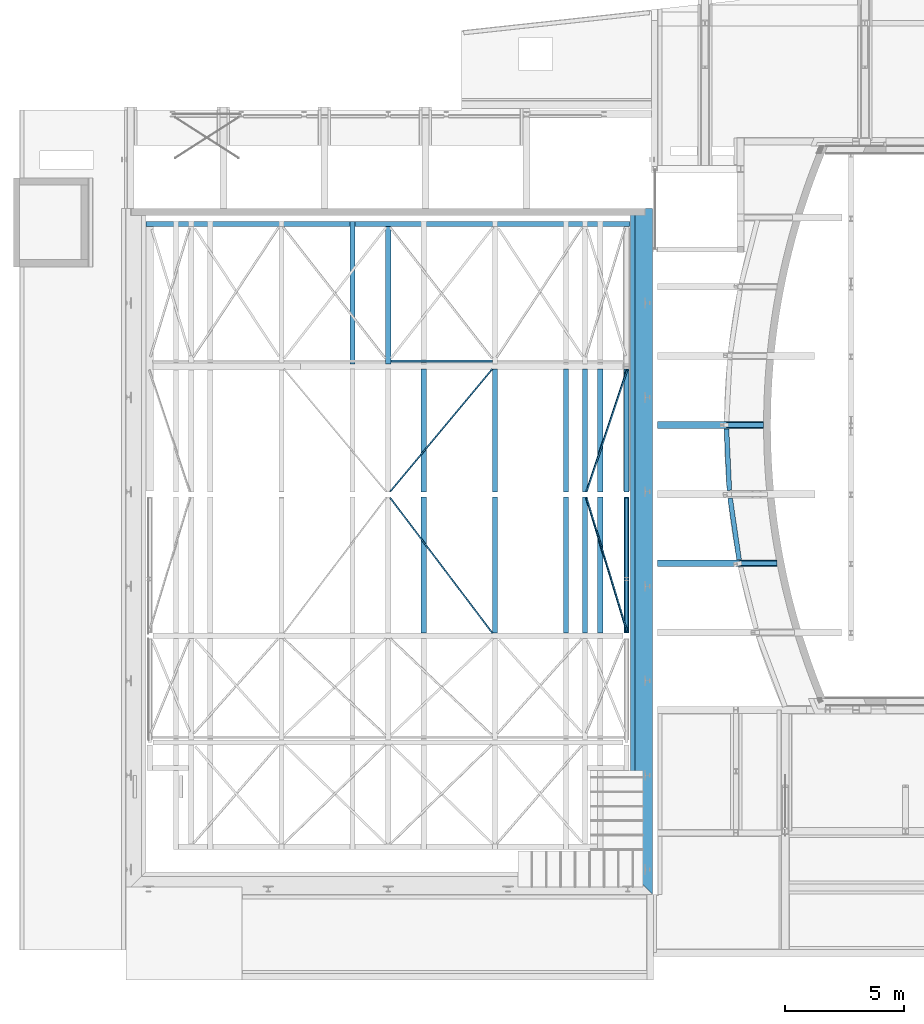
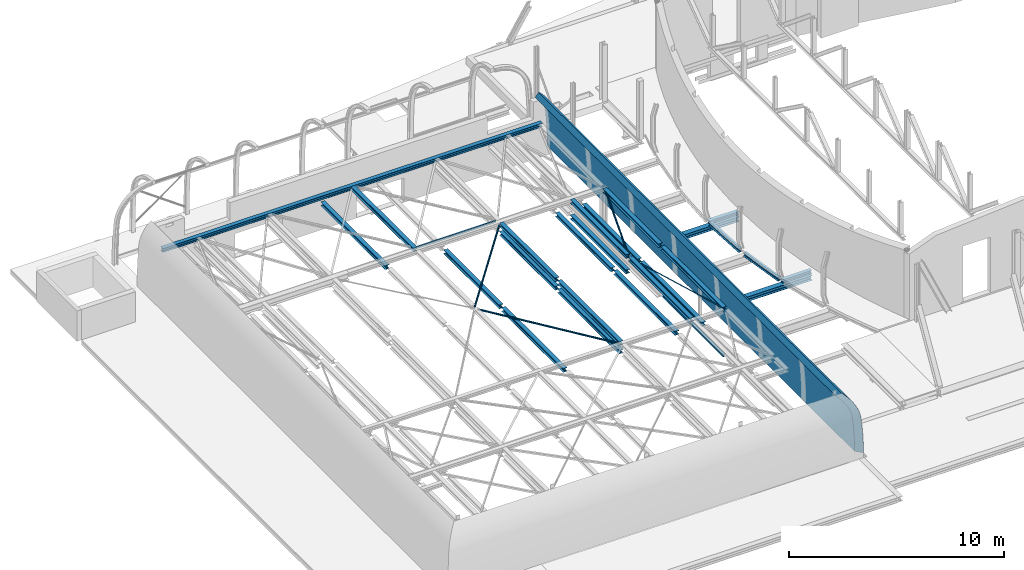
# One storey, part 16 of 38: 31 beams.
"""IFC2X3 building model written with IfcOpenShell, lengths in millimetres."""

from ifc_helpers import new_model, entity, si_unit, converted_unit, derived_unit, direction, frame, frame_2d, origin, place, context, subcontext, project, spatial, polyline, circle_curve, parameter, trimmed, segment, composite_curve, i_section, outline, extrude, clip, halfspace, material, type_object, element, save


model = new_model("IFC2X3")

# Units and contexts
model_context = context("Model", 3, precision=0.01, world=origin(), true_north=direction((6.12303176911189e-17, 1.0)))
body_context = subcontext(model_context, "Body", "Model", "MODEL_VIEW")
ifc_project = project(units=[si_unit("LENGTHUNIT", "METRE", prefix="MILLI"), si_unit("AREAUNIT", "SQUARE_METRE", prefix="MILLI"), si_unit("VOLUMEUNIT", "CUBIC_METRE"), converted_unit("PLANEANGLEUNIT", "DEGREE", entity("IfcRatioMeasure", 0.0174532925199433), si_unit("PLANEANGLEUNIT", "RADIAN"), dimensions=[0, 0, 0, 0, 0, 0, 0]), si_unit("MASSUNIT", "GRAM", prefix="KILO"), derived_unit("MASSDENSITYUNIT", [(si_unit("MASSUNIT", "GRAM", prefix="KILO"), 1), (si_unit("LENGTHUNIT", "METRE"), -3)]), derived_unit("MOMENTOFINERTIAUNIT", [(si_unit("LENGTHUNIT", "METRE"), 4)]), si_unit("TIMEUNIT", "SECOND"), si_unit("FREQUENCYUNIT", "HERTZ"), si_unit("THERMODYNAMICTEMPERATUREUNIT", "DEGREE_CELSIUS"), derived_unit("THERMALTRANSMITTANCEUNIT", [(si_unit("MASSUNIT", "GRAM", prefix="KILO"), 1), (si_unit("THERMODYNAMICTEMPERATUREUNIT", "KELVIN"), -1), (si_unit("TIMEUNIT", "SECOND"), -3)]), derived_unit("VOLUMETRICFLOWRATEUNIT", [(si_unit("LENGTHUNIT", "METRE"), 3), (si_unit("TIMEUNIT", "SECOND"), -1)]), si_unit("ELECTRICCURRENTUNIT", "AMPERE"), si_unit("ELECTRICVOLTAGEUNIT", "VOLT"), si_unit("POWERUNIT", "WATT"), si_unit("FORCEUNIT", "NEWTON", prefix="KILO"), si_unit("ILLUMINANCEUNIT", "LUX"), si_unit("LUMINOUSFLUXUNIT", "LUMEN"), si_unit("LUMINOUSINTENSITYUNIT", "CANDELA"), derived_unit("USERDEFINED", [(si_unit("MASSUNIT", "GRAM", prefix="KILO"), -1), (si_unit("LENGTHUNIT", "METRE"), -2), (si_unit("TIMEUNIT", "SECOND"), 3), (si_unit("LUMINOUSFLUXUNIT", "LUMEN"), 1)]), derived_unit("LINEARVELOCITYUNIT", [(si_unit("LENGTHUNIT", "METRE"), 1), (si_unit("TIMEUNIT", "SECOND"), -1)]), si_unit("PRESSUREUNIT", "PASCAL"), derived_unit("USERDEFINED", [(si_unit("LENGTHUNIT", "METRE"), -2), (si_unit("MASSUNIT", "GRAM", prefix="KILO"), 1), (si_unit("TIMEUNIT", "SECOND"), -2)]), derived_unit("LINEARFORCEUNIT", [(si_unit("MASSUNIT", "GRAM", prefix="KILO"), 1), (si_unit("LENGTHUNIT", "METRE"), 1), (si_unit("TIMEUNIT", "SECOND"), -2), (si_unit("LENGTHUNIT", "METRE"), -1)]), derived_unit("PLANARFORCEUNIT", [(si_unit("MASSUNIT", "GRAM", prefix="KILO"), 1), (si_unit("LENGTHUNIT", "METRE"), 1), (si_unit("TIMEUNIT", "SECOND"), -2), (si_unit("LENGTHUNIT", "METRE"), -2)])], contexts=[model_context])

# Site, building, storey
site_placement = place(None, origin())
site = spatial("IfcSite", under=ifc_project, at=site_placement, Name="Theater aan de Parade", CompositionType="ELEMENT")
building_placement = place(site_placement, origin())
building = spatial("IfcBuilding", under=site, at=building_placement, Name="Theater aan de Parade", CompositionType="ELEMENT")
storey_placement = place(building_placement, frame((0.0, 0.0, 12480.0)))
storey = spatial("IfcBuildingStorey", under=building, at=storey_placement, Name="03 derde verdieping", CompositionType="ELEMENT", Elevation=12480.0)

# Beams
ifc_material_1 = material(Name="00_PBT_MAT_staal_S355")
beam_type_1 = type_object("IfcBeamType", Name="28_PBT_SF_staal_H-profiel:S355_HE220B", PredefinedType="NOTDEFINED")
beam_1_placement = place(storey_placement, frame((15903.8570032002, 40923.3083270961, 1930.0)))
element("IfcBeam", 1, at=beam_1_placement, inside=storey, type_object=beam_type_1, material=ifc_material_1, Name="28_PBT_SF_staal_H-profiel:S355_HE220B", ObjectType="28_PBT_SF_staal_H-profiel:S355_HE220B", context=body_context, shape_type="SweptSolid", body=[
    extrude(i_section(OverallWidth=220.000000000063, OverallDepth=220.0, WebThickness=9.49999999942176, FlangeThickness=15.9999999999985, FilletRadius=17.9999999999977, at=frame_2d((-5.41433564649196e-12, 0.0), x_axis=(0.0, 1.0))), frame((0.0, 0.0, -110.0), z_axis=(1.0, 0.0, 0.0), x_axis=(0.0, 0.0, -1.0)), (0.0, 0.0, 1.0), 20390.0011268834),
])
ifc_material_2 = material(Name="00_PBT_MAT_beton prefab")
beam_type_2 = type_object("IfcBeamType", Name="28_PBT_SF_paradezaal_dakboog:28_PBT_SF_paradezaal_dakboog", PredefinedType="NOTDEFINED")
beam_2_placement = place(storey_placement, frame((36953.8581300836, 41573.3083270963, 0.0), z_axis=(0.0, 0.0, 1.0), x_axis=(0.0, -1.0, 0.0)))
element("IfcBeam", 2, at=beam_2_placement, inside=storey, type_object=beam_type_2, material=ifc_material_2, Name="28_PBT_SF_paradezaal_dakboog:28_PBT_SF_paradezaal_dakboog", ObjectType="28_PBT_SF_paradezaal_dakboog:28_PBT_SF_paradezaal_dakboog", context=body_context, shape_type="Clipping", body=[
    clip(extrude(outline(composite_curve([segment(polyline([(48.2751058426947, -1315.62635842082), (348.276069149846, -1315.62635842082)]), True, "CONTINUOUS"), segment(polyline([(348.276069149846, -1315.62635842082), (348.276069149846, -1235.62635842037)]), True, "CONTINUOUS"), segment(trimmed(circle_curve(frame_2d((-19571.6655062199, -1185.52725132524), x_axis=(0.999996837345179, -0.00251501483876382)), 19920.0045754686), [parameter(0.0)], [parameter(5.86098196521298)], True, "PARAMETER"), True, "CONTINUOUS"), segment(trimmed(circle_curve(frame_2d((-1483.66591109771, 503.073123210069), x_axis=(0.985753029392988, 0.168199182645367)), 1757.97390754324), [parameter(0.0)], [parameter(42.4704148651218)], True, "PARAMETER"), True, "CONTINUOUS"), segment(polyline([(-405.065458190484, 1891.27099188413), (-589.12970083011, 1654.37364157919)]), True, "CONTINUOUS"), segment(trimmed(circle_curve(frame_2d((-1483.6659110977, 503.073123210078), x_axis=(0.613547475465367, 0.789657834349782)), 1457.97390754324), [parameter(317.920295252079)], [parameter(0.0)], True, "PARAMETER"), False, "CONTINUOUS"), segment(trimmed(circle_curve(frame_2d((-19571.6655062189, -1185.52725132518), x_axis=(0.99508111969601, 0.0990634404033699)), 19620.0045754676), [parameter(354.168454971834)], [parameter(0.0)], True, "PARAMETER"), False, "CONTINUOUS"), segment(polyline([(48.2751058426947, -1235.62635842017), (48.2751058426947, -1315.62635842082)]), True, "CONTINUOUS")], self_intersect=False)), frame((0.0, -47.6858545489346, 1255.62635842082), z_axis=(1.0, 0.0, 0.0), x_axis=(0.0, 1.0, 0.0)), (0.0, 0.0, 1.0), 28904.671771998), halfspace(frame((28160.1492773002, -443.932280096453, 4340.0), z_axis=(0.707106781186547, -0.707106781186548, 0.0), x_axis=(-0.707106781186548, -0.707106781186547, 0.0)), False)),
])
beam_type_3 = type_object("IfcBeamType", Name="28_PBT_SF_staal_H-profiel:S355_HE220A", PredefinedType="NOTDEFINED")
beam_3_placement = place(storey_placement, frame((36153.8581300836, 34808.2922984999, 1930.0), z_axis=(0.0, 0.0, 1.0), x_axis=(0.0, -1.0, 0.0)))
element("IfcBeam", 3, at=beam_3_placement, inside=storey, type_object=beam_type_3, material=ifc_material_1, Name="28_PBT_SF_staal_H-profiel:S355_HE220A", ObjectType="28_PBT_SF_staal_H-profiel:S355_HE220A", context=body_context, shape_type="SweptSolid", body=[
    extrude(i_section(OverallWidth=219.999999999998, OverallDepth=210.0, WebThickness=7.00000000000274, FlangeThickness=10.9999999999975, FilletRadius=18.0000000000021, at=frame_2d((0.0, -6.50146603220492e-12), x_axis=(0.0, 1.0))), frame((0.0, 0.0, -105.0), z_axis=(1.0, 0.0, 0.0), x_axis=(0.0, 0.0, -1.0)), (0.0, 0.0, 1.0), 5180.0),
])
beam_4_placement = place(storey_placement, frame((36153.8581300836, 29408.2922984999, 1930.0), z_axis=(0.0, 0.0, 1.0), x_axis=(0.0, -1.0, 0.0)))
element("IfcBeam", 4, at=beam_4_placement, inside=storey, type_object=beam_type_3, material=ifc_material_1, Name="28_PBT_SF_staal_H-profiel:S355_HE220A", ObjectType="28_PBT_SF_staal_H-profiel:S355_HE220A", context=body_context, shape_type="SweptSolid", body=[
    extrude(i_section(OverallWidth=220.000000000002, OverallDepth=210.0, WebThickness=7.00000000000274, FlangeThickness=10.9999999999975, FilletRadius=18.0000000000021, at=frame_2d((0.0, -6.50146603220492e-12), x_axis=(0.0, 1.0))), frame((0.0, 0.0, -105.0), z_axis=(1.0, 0.0, 0.0), x_axis=(0.0, 0.0, -1.0)), (0.0, 0.0, 1.0), 5729.99999999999),
])
beam_5_placement = place(storey_placement, frame((26103.8570025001, 40813.308327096, 1930.0), z_axis=(0.0, 0.0, 1.0), x_axis=(0.0, -1.0, 0.0)))
element("IfcBeam", 5, at=beam_5_placement, inside=storey, type_object=beam_type_3, material=ifc_material_1, Name="28_PBT_SF_staal_H-profiel:S355_HE220A", ObjectType="28_PBT_SF_staal_H-profiel:S355_HE220A", context=body_context, shape_type="SweptSolid", body=[
    extrude(i_section(OverallWidth=220.000000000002, OverallDepth=210.0, WebThickness=7.00000000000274, FlangeThickness=10.9999999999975, FilletRadius=18.0000000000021, at=frame_2d((0.0, -2.16715534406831e-12), x_axis=(0.0, 1.0))), frame((0.0, 0.0, -105.0), z_axis=(1.0, 0.0, 0.0), x_axis=(0.0, 0.0, -1.0)), (0.0, 0.0, 1.0), 5785.01602859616),
])
beam_6_placement = place(storey_placement, frame((30603.8570025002, 34808.2922984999, 1930.0), z_axis=(0.0, 0.0, 1.0), x_axis=(0.0, -1.0, 0.0)))
element("IfcBeam", 6, at=beam_6_placement, inside=storey, type_object=beam_type_3, material=ifc_material_1, Name="28_PBT_SF_staal_H-profiel:S355_HE220A", ObjectType="28_PBT_SF_staal_H-profiel:S355_HE220A", context=body_context, shape_type="SweptSolid", body=[
    extrude(i_section(OverallWidth=219.999999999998, OverallDepth=210.0, WebThickness=7.00000000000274, FlangeThickness=10.9999999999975, FilletRadius=18.0000000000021, at=frame_2d((0.0, 2.16715534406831e-12), x_axis=(0.0, 1.0))), frame((0.0, 0.0, -105.0), z_axis=(1.0, 0.0, 0.0), x_axis=(0.0, 0.0, -1.0)), (0.0, 0.0, 1.0), 5180.0),
])
beam_7_placement = place(storey_placement, frame((30603.8570025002, 29408.2922984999, 1930.0), z_axis=(0.0, 0.0, 1.0), x_axis=(0.0, -1.0, 0.0)))
element("IfcBeam", 7, at=beam_7_placement, inside=storey, type_object=beam_type_3, material=ifc_material_1, Name="28_PBT_SF_staal_H-profiel:S355_HE220A", ObjectType="28_PBT_SF_staal_H-profiel:S355_HE220A", context=body_context, shape_type="SweptSolid", body=[
    extrude(i_section(OverallWidth=220.000000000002, OverallDepth=210.0, WebThickness=7.00000000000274, FlangeThickness=10.9999999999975, FilletRadius=18.0000000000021, at=frame_2d((0.0, 2.16715534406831e-12), x_axis=(0.0, 1.0))), frame((0.0, 0.0, -105.0), z_axis=(1.0, 0.0, 0.0), x_axis=(0.0, 0.0, -1.0)), (0.0, 0.0, 1.0), 5729.99999999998),
])
beam_8_placement = place(storey_placement, frame((34405.85634631, 34808.2922984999, 1930.0), z_axis=(0.0, 0.0, 1.0), x_axis=(0.0, -1.0, 0.0)))
element("IfcBeam", 8, at=beam_8_placement, inside=storey, type_object=beam_type_3, material=ifc_material_1, Name="28_PBT_SF_staal_H-profiel:S355_HE220A", ObjectType="28_PBT_SF_staal_H-profiel:S355_HE220A", context=body_context, shape_type="SweptSolid", body=[
    extrude(i_section(OverallWidth=219.999999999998, OverallDepth=210.0, WebThickness=7.00000000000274, FlangeThickness=10.9999999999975, FilletRadius=18.0000000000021, at=frame_2d((0.0, -2.16715534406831e-12), x_axis=(0.0, 1.0))), frame((0.0, 0.0, -105.0), z_axis=(1.0, 0.0, 0.0), x_axis=(0.0, 0.0, -1.0)), (0.0, 0.0, 1.0), 5180.0),
])
beam_9_placement = place(storey_placement, frame((34405.85634631, 29408.2922984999, 1930.0), z_axis=(0.0, 0.0, 1.0), x_axis=(0.0, -1.0, 0.0)))
element("IfcBeam", 9, at=beam_9_placement, inside=storey, type_object=beam_type_3, material=ifc_material_1, Name="28_PBT_SF_staal_H-profiel:S355_HE220A", ObjectType="28_PBT_SF_staal_H-profiel:S355_HE220A", context=body_context, shape_type="SweptSolid", body=[
    extrude(i_section(OverallWidth=220.000000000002, OverallDepth=210.0, WebThickness=7.00000000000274, FlangeThickness=10.9999999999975, FilletRadius=18.0000000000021, at=frame_2d((0.0, -2.16715534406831e-12), x_axis=(0.0, 1.0))), frame((0.0, 0.0, -105.0), z_axis=(1.0, 0.0, 0.0), x_axis=(0.0, 0.0, -1.0)), (0.0, 0.0, 1.0), 5729.99999999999),
])
beam_10_placement = place(storey_placement, frame((24603.8563463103, 41033.3083270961, 1930.0), z_axis=(0.0, 0.0, 1.0), x_axis=(0.0, -1.0, 0.0)))
element("IfcBeam", 10, at=beam_10_placement, inside=storey, type_object=beam_type_3, material=ifc_material_1, Name="28_PBT_SF_staal_H-profiel:S355_HE220A", ObjectType="28_PBT_SF_staal_H-profiel:S355_HE220A", context=body_context, shape_type="SweptSolid", body=[
    extrude(i_section(OverallWidth=220.000000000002, OverallDepth=210.0, WebThickness=7.00000000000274, FlangeThickness=10.9999999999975, FilletRadius=18.0000000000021, at=frame_2d((-2.16715534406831e-12, 2.16715534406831e-12), x_axis=(0.0, 1.0))), frame((0.0, 0.0, -585.0), z_axis=(1.0, 0.0, 0.0), x_axis=(0.0, 0.0, -1.0)), (0.0, 0.0, 1.0), 6005.01602859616),
])
beam_11_placement = place(storey_placement, frame((27603.8563463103, 34808.2922984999, 1930.0), z_axis=(0.0, 0.0, 1.0), x_axis=(0.0, -1.0, 0.0)))
element("IfcBeam", 11, at=beam_11_placement, inside=storey, type_object=beam_type_3, material=ifc_material_1, Name="28_PBT_SF_staal_H-profiel:S355_HE220A", ObjectType="28_PBT_SF_staal_H-profiel:S355_HE220A", context=body_context, shape_type="SweptSolid", body=[
    extrude(i_section(OverallWidth=219.999999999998, OverallDepth=210.0, WebThickness=7.00000000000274, FlangeThickness=10.9999999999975, FilletRadius=18.0000000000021, at=frame_2d((-2.16715534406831e-12, -2.16715534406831e-12), x_axis=(0.0, 1.0))), frame((0.0, 0.0, -585.0), z_axis=(1.0, 0.0, 0.0), x_axis=(0.0, 0.0, -1.0)), (0.0, 0.0, 1.0), 5180.0),
])
beam_12_placement = place(storey_placement, frame((27603.8563463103, 29408.2922984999, 1930.0), z_axis=(0.0, 0.0, 1.0), x_axis=(0.0, -1.0, 0.0)))
element("IfcBeam", 12, at=beam_12_placement, inside=storey, type_object=beam_type_3, material=ifc_material_1, Name="28_PBT_SF_staal_H-profiel:S355_HE220A", ObjectType="28_PBT_SF_staal_H-profiel:S355_HE220A", context=body_context, shape_type="SweptSolid", body=[
    extrude(i_section(OverallWidth=220.000000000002, OverallDepth=210.0, WebThickness=7.00000000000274, FlangeThickness=10.9999999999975, FilletRadius=18.0000000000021, at=frame_2d((-2.16715534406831e-12, -2.16715534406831e-12), x_axis=(0.0, 1.0))), frame((0.0, 0.0, -585.0), z_axis=(1.0, 0.0, 0.0), x_axis=(0.0, 0.0, -1.0)), (0.0, 0.0, 1.0), 5729.99999999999),
])
beam_13_placement = place(storey_placement, frame((33603.8563463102, 34808.2922984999, 1930.0), z_axis=(0.0, 0.0, 1.0), x_axis=(0.0, -1.0, 0.0)))
element("IfcBeam", 13, at=beam_13_placement, inside=storey, type_object=beam_type_3, material=ifc_material_1, Name="28_PBT_SF_staal_H-profiel:S355_HE220A", ObjectType="28_PBT_SF_staal_H-profiel:S355_HE220A", context=body_context, shape_type="SweptSolid", body=[
    extrude(i_section(OverallWidth=219.999999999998, OverallDepth=210.0, WebThickness=7.00000000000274, FlangeThickness=10.9999999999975, FilletRadius=18.0000000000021, at=frame_2d((-2.16715534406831e-12, -2.16715534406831e-12), x_axis=(0.0, 1.0))), frame((0.0, 0.0, -585.0), z_axis=(1.0, 0.0, 0.0), x_axis=(0.0, 0.0, -1.0)), (0.0, 0.0, 1.0), 5180.0),
])
beam_14_placement = place(storey_placement, frame((33603.8563463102, 29408.2922984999, 1930.0), z_axis=(0.0, 0.0, 1.0), x_axis=(0.0, -1.0, 0.0)))
element("IfcBeam", 14, at=beam_14_placement, inside=storey, type_object=beam_type_3, material=ifc_material_1, Name="28_PBT_SF_staal_H-profiel:S355_HE220A", ObjectType="28_PBT_SF_staal_H-profiel:S355_HE220A", context=body_context, shape_type="SweptSolid", body=[
    extrude(i_section(OverallWidth=220.000000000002, OverallDepth=210.0, WebThickness=7.00000000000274, FlangeThickness=10.9999999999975, FilletRadius=18.0000000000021, at=frame_2d((-2.16715534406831e-12, -6.50146603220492e-12), x_axis=(0.0, 1.0))), frame((0.0, 0.0, -585.0), z_axis=(1.0, 0.0, 0.0), x_axis=(0.0, 0.0, -1.0)), (0.0, 0.0, 1.0), 5729.99999999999),
])
beam_15_placement = place(storey_placement, frame((35043.8557463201, 34808.2922984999, 1930.0), z_axis=(0.0, 0.0, 1.0), x_axis=(0.0, -1.0, 0.0)))
element("IfcBeam", 15, at=beam_15_placement, inside=storey, type_object=beam_type_3, material=ifc_material_1, Name="28_PBT_SF_staal_H-profiel:S355_HE220A", ObjectType="28_PBT_SF_staal_H-profiel:S355_HE220A", context=body_context, shape_type="SweptSolid", body=[
    extrude(i_section(OverallWidth=219.999999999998, OverallDepth=210.0, WebThickness=7.00000000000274, FlangeThickness=10.9999999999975, FilletRadius=18.0000000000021, at=frame_2d((-2.16715534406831e-12, 6.50146603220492e-12), x_axis=(0.0, 1.0))), frame((0.0, 0.0, -585.0), z_axis=(1.0, 0.0, 0.0), x_axis=(0.0, 0.0, -1.0)), (0.0, 0.0, 1.0), 5180.0),
])
beam_16_placement = place(storey_placement, frame((35043.8557463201, 29408.2922984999, 1930.0), z_axis=(0.0, 0.0, 1.0), x_axis=(0.0, -1.0, 0.0)))
element("IfcBeam", 16, at=beam_16_placement, inside=storey, type_object=beam_type_3, material=ifc_material_1, Name="28_PBT_SF_staal_H-profiel:S355_HE220A", ObjectType="28_PBT_SF_staal_H-profiel:S355_HE220A", context=body_context, shape_type="SweptSolid", body=[
    extrude(i_section(OverallWidth=220.000000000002, OverallDepth=210.0, WebThickness=7.00000000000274, FlangeThickness=10.9999999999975, FilletRadius=18.0000000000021, at=frame_2d((-2.16715534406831e-12, 6.50146603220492e-12), x_axis=(0.0, 1.0))), frame((0.0, 0.0, -585.0), z_axis=(1.0, 0.0, 0.0), x_axis=(0.0, 0.0, -1.0)), (0.0, 0.0, 1.0), 5729.99999999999),
])
beam_17_placement = place(storey_placement, frame((30603.8570025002, 34808.2922984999, 1930.0), z_axis=(0.0, 0.0, 1.0), x_axis=(0.0, -1.0, 0.0)))
element("IfcBeam", 17, at=beam_17_placement, inside=storey, type_object=beam_type_3, material=ifc_material_1, Name="28_PBT_SF_staal_H-profiel:S355_HE220A", ObjectType="28_PBT_SF_staal_H-profiel:S355_HE220A", context=body_context, shape_type="SweptSolid", body=[
    extrude(i_section(OverallWidth=219.999999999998, OverallDepth=210.0, WebThickness=7.00000000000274, FlangeThickness=10.9999999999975, FilletRadius=18.0000000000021, at=frame_2d((-2.16715534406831e-12, 2.16715534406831e-12), x_axis=(0.0, 1.0))), frame((0.0, 0.0, -585.0), z_axis=(1.0, 0.0, 0.0), x_axis=(0.0, 0.0, -1.0)), (0.0, 0.0, 1.0), 5180.0),
])
beam_18_placement = place(storey_placement, frame((34405.85634631, 34808.2922984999, 1930.0), z_axis=(0.0, 0.0, 1.0), x_axis=(0.0, -1.0, 0.0)))
element("IfcBeam", 18, at=beam_18_placement, inside=storey, type_object=beam_type_3, material=ifc_material_1, Name="28_PBT_SF_staal_H-profiel:S355_HE220A", ObjectType="28_PBT_SF_staal_H-profiel:S355_HE220A", context=body_context, shape_type="SweptSolid", body=[
    extrude(i_section(OverallWidth=219.999999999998, OverallDepth=210.0, WebThickness=7.00000000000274, FlangeThickness=10.9999999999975, FilletRadius=18.0000000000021, at=frame_2d((-2.16715534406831e-12, 2.16715534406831e-12), x_axis=(0.0, 1.0))), frame((0.0, 0.0, -985.0), z_axis=(1.0, 0.0, 0.0), x_axis=(0.0, 0.0, -1.0)), (0.0, 0.0, 1.0), 5180.0),
])
beam_19_placement = place(storey_placement, frame((30603.8570025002, 29408.2922984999, 1930.0), z_axis=(0.0, 0.0, 1.0), x_axis=(0.0, -1.0, 0.0)))
element("IfcBeam", 19, at=beam_19_placement, inside=storey, type_object=beam_type_3, material=ifc_material_1, Name="28_PBT_SF_staal_H-profiel:S355_HE220A", ObjectType="28_PBT_SF_staal_H-profiel:S355_HE220A", context=body_context, shape_type="SweptSolid", body=[
    extrude(i_section(OverallWidth=220.000000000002, OverallDepth=210.0, WebThickness=7.00000000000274, FlangeThickness=10.9999999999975, FilletRadius=18.0000000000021, at=frame_2d((-2.16715534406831e-12, 2.16715534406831e-12), x_axis=(0.0, 1.0))), frame((0.0, 0.0, -585.0), z_axis=(1.0, 0.0, 0.0), x_axis=(0.0, 0.0, -1.0)), (0.0, 0.0, 1.0), 5729.99999999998),
])
beam_type_4 = type_object("IfcBeamType", Name="28_PBT_SF_staal_H-profiel:S355_HE140A", PredefinedType="NOTDEFINED")
beam_20_placement = place(storey_placement, frame((36153.8581300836, 29378.2922984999, 0.0), z_axis=(0.0, 0.0, 1.0), x_axis=(0.0, -1.0, 0.0)))
element("IfcBeam", 20, at=beam_20_placement, inside=storey, type_object=beam_type_4, material=ifc_material_1, Name="28_PBT_SF_staal_H-profiel:S355_HE140A", ObjectType="28_PBT_SF_staal_H-profiel:S355_HE140A", context=body_context, shape_type="SweptSolid", body=[
    extrude(i_section(OverallWidth=139.999999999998, OverallDepth=133.0, WebThickness=5.50000000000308, FlangeThickness=8.49999999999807, FilletRadius=12.0000000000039, at=frame_2d((0.0, 2.1600499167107e-12), x_axis=(0.0, 1.0))), frame((0.0, 0.0, -846.5), z_axis=(1.0, 0.0, 0.0), x_axis=(0.0, 0.0, -1.0)), (0.0, 0.0, 1.0), 5669.99999999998),
])
beam_type_5 = type_object("IfcBeamType", Name="28_PBT_SF_staal_H-profiel:S355_HE200A", PredefinedType="NOTDEFINED")
beam_21_placement = place(storey_placement, frame((40366.177385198, 32287.0565822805, 0.0), z_axis=(0.0, 0.0, 1.0), x_axis=(0.0462129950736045, -0.9989316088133, 0.0)))
element("IfcBeam", 21, at=beam_21_placement, inside=storey, type_object=beam_type_5, material=ifc_material_1, Name="28_PBT_SF_staal_H-profiel:S355_HE200A", ObjectType="28_PBT_SF_staal_H-profiel:S355_HE200A", context=body_context, shape_type="SweptSolid", body=[
    extrude(i_section(OverallWidth=199.999999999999, OverallDepth=190.0, WebThickness=6.49999999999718, FlangeThickness=9.99999999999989, FilletRadius=18.0000000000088, at=frame_2d((-2.16715534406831e-12, 4.32720526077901e-12), x_axis=(0.0, 1.0))), frame((0.0, 0.0, -25.0), z_axis=(1.0, 0.0, 0.0), x_axis=(0.0, 0.0, -1.0)), (0.0, 0.0, 1.0), 2590.0),
])
beam_22_placement = place(storey_placement, frame((40518.3390978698, 29370.7376646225, 0.0), z_axis=(0.0, 0.0, 1.0), x_axis=(0.144710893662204, -0.989473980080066, 0.0)))
element("IfcBeam", 22, at=beam_22_placement, inside=storey, type_object=beam_type_5, material=ifc_material_1, Name="28_PBT_SF_staal_H-profiel:S355_HE200A", ObjectType="28_PBT_SF_staal_H-profiel:S355_HE200A", context=body_context, shape_type="SweptSolid", body=[
    extrude(i_section(OverallWidth=200.0, OverallDepth=190.0, WebThickness=6.50000000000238, FlangeThickness=9.99999999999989, FilletRadius=18.0000000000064, at=frame_2d((-2.16715534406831e-12, 4.2845726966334e-12), x_axis=(0.0, 1.0))), frame((0.0, 0.0, -25.0), z_axis=(1.0, 0.0, 0.0), x_axis=(0.0, 0.0, -1.0)), (0.0, 0.0, 1.0), 2620.00000000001),
])
beam_23_placement = place(storey_placement, frame((40358.6622619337, 32450.0, 0.0)))
element("IfcBeam", 23, at=beam_23_placement, inside=storey, type_object=beam_type_5, material=ifc_material_1, Name="28_PBT_SF_staal_H-profiel:S355_HE200A", ObjectType="28_PBT_SF_staal_H-profiel:S355_HE200A", context=body_context, shape_type="SweptSolid", body=[
    extrude(i_section(OverallWidth=200.000000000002, OverallDepth=190.0, WebThickness=6.50000000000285, FlangeThickness=9.99999999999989, FilletRadius=18.0000000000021, at=frame_2d((-2.16715534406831e-12, 2.16715534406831e-12), x_axis=(0.0, 1.0))), frame((0.0, 0.0, -25.0), z_axis=(1.0, 0.0, 0.0), x_axis=(0.0, 0.0, -1.0)), (0.0, 0.0, 1.0), 1571.33773806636),
])
beam_24_placement = place(storey_placement, frame((40922.737150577, 26620.0, 0.0)))
element("IfcBeam", 24, at=beam_24_placement, inside=storey, type_object=beam_type_5, material=ifc_material_1, Name="28_PBT_SF_staal_H-profiel:S355_HE200A", ObjectType="28_PBT_SF_staal_H-profiel:S355_HE200A", context=body_context, shape_type="SweptSolid", body=[
    extrude(i_section(OverallWidth=200.000000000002, OverallDepth=190.0, WebThickness=6.50000000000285, FlangeThickness=9.99999999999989, FilletRadius=18.0000000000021, at=frame_2d((-2.16715534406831e-12, -2.16715534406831e-12), x_axis=(0.0, 1.0))), frame((0.0, 0.0, -25.0), z_axis=(1.0, 0.0, 0.0), x_axis=(0.0, 0.0, -1.0)), (0.0, 0.0, 1.0), 1567.66737349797),
])
beam_type_6 = type_object("IfcBeamType", Name="28_PBT_SF_staal_L-profiel:S355_L70x70x7", PredefinedType="NOTDEFINED")
beam_25_placement = place(storey_placement, frame((30603.8570025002, 34918.2922984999, 1930.0), z_axis=(0.0, 0.0, 1.0), x_axis=(-0.640184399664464, -0.768221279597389, 0.0)))
element("IfcBeam", 25, at=beam_25_placement, inside=storey, type_object=beam_type_6, material=ifc_material_1, Name="28_PBT_SF_staal_L-profiel:S355_L70x70x7", ObjectType="28_PBT_SF_staal_L-profiel:S355_L70x70x7", context=body_context, shape_type="SweptSolid", body=[
    extrude(outline(composite_curve([segment(polyline([(23.9444444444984, -43.555555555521), (26.4444444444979, -43.555555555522)]), True, "CONTINUOUS"), segment(polyline([(26.4444444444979, -43.5555555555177), (26.4444444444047, 26.4444444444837)]), True, "CONTINUOUS"), segment(polyline([(26.4444444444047, 26.4444444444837), (-43.5555555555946, 26.4444444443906)]), True, "CONTINUOUS"), segment(polyline([(-43.5555555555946, 26.4444444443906), (-43.5555555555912, 23.9444444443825)]), True, "CONTINUOUS"), segment(trimmed(circle_curve(frame_2d((-39.0555555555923, 23.9444444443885), x_axis=(-1.0, 0.0)), 4.50000000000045), [parameter(0.0)], [parameter(90.0000000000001)], True, "PARAMETER"), True, "CONTINUOUS"), segment(polyline([(-39.0555555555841, 19.4444444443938), (10.4444444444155, 19.4444444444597)]), True, "CONTINUOUS"), segment(trimmed(circle_curve(frame_2d((10.4444444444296, 10.4444444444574), x_axis=(0.0, 1.0)), 8.99999999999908), [parameter(269.999999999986)], [parameter(0.0)], True, "PARAMETER"), False, "CONTINUOUS"), segment(polyline([(19.4444444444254, 10.4444444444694), (19.4444444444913, -39.055555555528)]), True, "CONTINUOUS"), segment(trimmed(circle_curve(frame_2d((23.9444444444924, -39.055555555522), x_axis=(-1.0, 0.0)), 4.50000000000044), [parameter(0.0)], [parameter(90.0000000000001)], True, "PARAMETER"), True, "CONTINUOUS")], self_intersect=False)), frame((150.0, -6.74444444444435, -103.555555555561), z_axis=(1.0, 0.0, 0.0), x_axis=(0.0, 0.0, -1.0)), (0.0, 0.0, 1.0), 6729.22470831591),
])
beam_26_placement = place(storey_placement, frame((30603.8570025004, 23568.2922985, 1930.0), z_axis=(0.0, 0.0, 1.0), x_axis=(-0.603212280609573, 0.797580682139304, 0.0)))
element("IfcBeam", 26, at=beam_26_placement, inside=storey, type_object=beam_type_6, material=ifc_material_1, Name="28_PBT_SF_staal_L-profiel:S355_L70x70x7", ObjectType="28_PBT_SF_staal_L-profiel:S355_L70x70x7", context=body_context, shape_type="SweptSolid", body=[
    extrude(outline(composite_curve([segment(polyline([(-43.5555555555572, -26.444444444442), (26.444444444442, -26.444444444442)]), True, "CONTINUOUS"), segment(polyline([(26.444444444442, -26.444444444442), (26.444444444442, 43.5555555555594)]), True, "CONTINUOUS"), segment(polyline([(26.444444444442, 43.5555555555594), (23.9444444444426, 43.5555555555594)]), True, "CONTINUOUS"), segment(trimmed(circle_curve(frame_2d((23.9444444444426, 39.0555555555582), x_axis=(0.0, 1.0)), 4.49999999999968), [parameter(0.0)], [parameter(90.0000000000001)], True, "PARAMETER"), True, "CONTINUOUS"), segment(polyline([(19.4444444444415, 39.0555555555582), (19.4444444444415, -10.4444444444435)]), True, "CONTINUOUS"), segment(trimmed(circle_curve(frame_2d((10.4444444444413, -10.444444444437), x_axis=(1.0, 0.0)), 9.00000000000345), [parameter(270.000000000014)], [parameter(0.0)], True, "PARAMETER"), False, "CONTINUOUS"), segment(polyline([(10.4444444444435, -19.4444444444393), (-39.0555555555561, -19.4444444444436)]), True, "CONTINUOUS"), segment(trimmed(circle_curve(frame_2d((-39.0555555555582, -23.9444444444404), x_axis=(0.0, 1.0)), 4.49999999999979), [parameter(0.0)], [parameter(90.0000000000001)], True, "PARAMETER"), True, "CONTINUOUS"), segment(polyline([(-43.5555555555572, -23.9444444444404), (-43.5555555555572, -26.444444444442)]), True, "CONTINUOUS")], self_intersect=False)), frame((150.0, 6.74444444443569, -103.555555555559), z_axis=(1.0, 0.0, 0.0), x_axis=(0.0, 0.0, -1.0)), (0.0, 0.0, 1.0), 7160.06032147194),
])
beam_27_placement = place(storey_placement, frame((34403.8570025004, 29518.2922984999, 1930.0), z_axis=(0.0, 0.0, 1.0), x_axis=(0.28979513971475, -0.957088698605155, 0.0)))
element("IfcBeam", 27, at=beam_27_placement, inside=storey, type_object=beam_type_6, material=ifc_material_1, Name="28_PBT_SF_staal_L-profiel:S355_L70x70x7", ObjectType="28_PBT_SF_staal_L-profiel:S355_L70x70x7", context=body_context, shape_type="SweptSolid", body=[
    extrude(outline(composite_curve([segment(polyline([(-43.5555555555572, -26.444444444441), (26.444444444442, -26.444444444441)]), True, "CONTINUOUS"), segment(polyline([(26.444444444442, -26.444444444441), (26.444444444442, 43.555555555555)]), True, "CONTINUOUS"), segment(polyline([(26.444444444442, 43.5555555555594), (23.9444444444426, 43.5555555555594)]), True, "CONTINUOUS"), segment(trimmed(circle_curve(frame_2d((23.9444444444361, 39.0555555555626), x_axis=(0.0, 1.0)), 4.49999999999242), [parameter(0.0)], [parameter(90.0000000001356)], True, "PARAMETER"), True, "CONTINUOUS"), segment(polyline([(19.4444444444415, 39.0555555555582), (19.4444444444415, -10.4444444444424)]), True, "CONTINUOUS"), segment(trimmed(circle_curve(frame_2d((10.4444444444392, -10.4444444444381), x_axis=(1.0, 0.0)), 9.00000000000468), [parameter(270.000000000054)], [parameter(0.0)], True, "PARAMETER"), False, "CONTINUOUS"), segment(polyline([(10.4444444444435, -19.4444444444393), (-39.0555555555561, -19.4444444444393)]), True, "CONTINUOUS"), segment(trimmed(circle_curve(frame_2d((-39.0555555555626, -23.944444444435), x_axis=(0.0, 1.0)), 4.49999999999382), [parameter(0.0)], [parameter(90.000000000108)], True, "PARAMETER"), True, "CONTINUOUS"), segment(polyline([(-43.5555555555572, -23.9444444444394), (-43.5555555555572, -26.444444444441)]), True, "CONTINUOUS")], self_intersect=False)), frame((150.0, 6.74444444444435, -103.555555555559), z_axis=(1.0, 0.0, 0.0), x_axis=(0.0, 0.0, -1.0)), (0.0, 0.0, 1.0), 5911.28429231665),
])
beam_28_placement = place(storey_placement, frame((34403.8570025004, 29518.2922984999, 1930.0), z_axis=(0.0, 0.0, 1.0), x_axis=(0.316227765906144, 0.948683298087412, 0.0)))
element("IfcBeam", 28, at=beam_28_placement, inside=storey, type_object=beam_type_6, material=ifc_material_1, Name="28_PBT_SF_staal_L-profiel:S355_L70x70x7", ObjectType="28_PBT_SF_staal_L-profiel:S355_L70x70x7", context=body_context, shape_type="SweptSolid", body=[
    extrude(outline(composite_curve([segment(polyline([(23.9444444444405, -43.5555555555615), (26.4444444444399, -43.5555555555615)]), True, "CONTINUOUS"), segment(polyline([(26.4444444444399, -43.5555555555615), (26.4444444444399, 26.4444444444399)]), True, "CONTINUOUS"), segment(polyline([(26.4444444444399, 26.4444444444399), (-43.5555555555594, 26.4444444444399)]), True, "CONTINUOUS"), segment(polyline([(-43.5555555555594, 26.4444444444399), (-43.5555555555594, 23.9444444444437)]), True, "CONTINUOUS"), segment(trimmed(circle_curve(frame_2d((-39.0555555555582, 23.9444444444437), x_axis=(-1.0, 0.0)), 4.50000000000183), [parameter(0.0)], [parameter(89.9999999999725)], True, "PARAMETER"), True, "CONTINUOUS"), segment(polyline([(-39.0555555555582, 19.4444444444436), (10.4444444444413, 19.444444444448)]), True, "CONTINUOUS"), segment(trimmed(circle_curve(frame_2d((10.4444444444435, 10.4444444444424), x_axis=(0.0, 1.0)), 8.99999999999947), [parameter(269.999999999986)], [parameter(0.0)], True, "PARAMETER"), False, "CONTINUOUS"), segment(polyline([(19.4444444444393, 10.4444444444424), (19.4444444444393, -39.0555555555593)]), True, "CONTINUOUS"), segment(trimmed(circle_curve(frame_2d((23.9444444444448, -39.055555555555), x_axis=(-1.0, 0.0)), 4.50000000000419), [parameter(0.0)], [parameter(89.9999999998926)], True, "PARAMETER"), True, "CONTINUOUS")], self_intersect=False)), frame((150.0, -6.74444444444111, -103.555555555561), z_axis=(1.0, 0.0, 0.0), x_axis=(0.0, 0.0, -1.0)), (0.0, 0.0, 1.0), 5392.09978808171),
])
beam_type_7 = type_object("IfcBeamType", Name="28_PBT_SF_staal_H-profiel:S355_HE280A", PredefinedType="NOTDEFINED")
beam_29_placement = place(storey_placement, frame((37453.8581300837, 32450.0, 0.0)))
element("IfcBeam", 29, at=beam_29_placement, inside=storey, type_object=beam_type_7, material=ifc_material_1, Name="28_PBT_SF_staal_H-profiel:S355_HE280A", ObjectType="28_PBT_SF_staal_H-profiel:S355_HE280A", context=body_context, shape_type="SweptSolid", body=[
    extrude(i_section(OverallWidth=280.000000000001, OverallDepth=269.999999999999, WebThickness=8.00000000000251, FlangeThickness=12.9999999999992, FilletRadius=23.9999999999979, at=frame_2d((-2.1600499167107e-12, 2.1600499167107e-12), x_axis=(0.0, 1.0))), frame((0.0, 0.0, -340.0), z_axis=(1.0, 0.0, 0.0), x_axis=(0.0, 0.0, -1.0)), (0.0, 0.0, 1.0), 4476.14186991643),
])
beam_30_placement = place(storey_placement, frame((37453.8581300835, 26620.0, 0.0)))
element("IfcBeam", 30, at=beam_30_placement, inside=storey, type_object=beam_type_7, material=ifc_material_1, Name="28_PBT_SF_staal_H-profiel:S355_HE280A", ObjectType="28_PBT_SF_staal_H-profiel:S355_HE280A", context=body_context, shape_type="SweptSolid", body=[
    extrude(i_section(OverallWidth=280.000000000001, OverallDepth=269.999999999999, WebThickness=8.00000000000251, FlangeThickness=12.9999999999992, FilletRadius=23.9999999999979, at=frame_2d((-2.1600499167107e-12, 2.1600499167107e-12), x_axis=(0.0, 1.0))), frame((0.0, 0.0, -340.0), z_axis=(1.0, 0.0, 0.0), x_axis=(0.0, 0.0, -1.0)), (0.0, 0.0, 1.0), 5041.73359425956),
])
beam_type_8 = type_object("IfcBeamType", Name="28_PBT_SF_staal_koker:S355_K100x100x8", PredefinedType="NOTDEFINED")
beam_31_placement = place(storey_placement, frame((26213.8570025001, 35146.2906196, 1930.0)))
element("IfcBeam", 31, at=beam_31_placement, inside=storey, type_object=beam_type_8, material=ifc_material_1, Name="28_PBT_SF_staal_koker:S355_K100x100x8", ObjectType="28_PBT_SF_staal_koker:S355_K100x100x8", context=body_context, shape_type="SweptSolid", body=[
    extrude(outline(composite_curve([segment(polyline([(-38.0, -50.0), (38.0, -50.0)]), True, "CONTINUOUS"), segment(trimmed(circle_curve(frame_2d((38.0, -38.0), x_axis=(0.0, 1.0)), 12.0), [parameter(180.0)], [parameter(270.0)], True, "PARAMETER"), True, "CONTINUOUS"), segment(polyline([(50.0, -38.0), (50.0, 38.0)]), True, "CONTINUOUS"), segment(trimmed(circle_curve(frame_2d((38.0, 38.0), x_axis=(0.0, 1.0)), 12.0), [parameter(270.0)], [parameter(360.0)], True, "PARAMETER"), True, "CONTINUOUS"), segment(polyline([(38.0, 50.0), (-38.0, 50.0)]), True, "CONTINUOUS"), segment(trimmed(circle_curve(frame_2d((-38.0, 38.0), x_axis=(0.0, 1.0)), 12.0), [parameter(0.0)], [parameter(90.0000000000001)], True, "PARAMETER"), True, "CONTINUOUS"), segment(polyline([(-50.0, 38.0), (-50.0, -38.0)]), True, "CONTINUOUS"), segment(trimmed(circle_curve(frame_2d((-38.0, -38.0), x_axis=(0.0, 1.0)), 12.0), [parameter(90.0)], [parameter(180.0)], True, "PARAMETER"), True, "CONTINUOUS")], self_intersect=False), holes=[composite_curve([segment(polyline([(42.0, 34.0), (42.0, -34.0)]), True, "CONTINUOUS"), segment(trimmed(circle_curve(frame_2d((34.0, -34.0), x_axis=(0.0, 1.0)), 8.0), [parameter(180.0)], [parameter(270.0)], True, "PARAMETER"), False, "CONTINUOUS"), segment(polyline([(34.0, -42.0), (-34.0, -42.0)]), True, "CONTINUOUS"), segment(trimmed(circle_curve(frame_2d((-34.0, -34.0), x_axis=(0.0, 1.0)), 8.0), [parameter(90.0)], [parameter(180.0)], True, "PARAMETER"), False, "CONTINUOUS"), segment(polyline([(-42.0, -34.0), (-42.0, 34.0)]), True, "CONTINUOUS"), segment(trimmed(circle_curve(frame_2d((-34.0, 34.0), x_axis=(0.0, 1.0)), 8.0), [parameter(3.56222124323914e-13)], [parameter(90.0000000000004)], True, "PARAMETER"), False, "CONTINUOUS"), segment(polyline([(-34.0, 42.0), (34.0, 42.0)]), True, "CONTINUOUS"), segment(trimmed(circle_curve(frame_2d((34.0, 34.0), x_axis=(0.0, 1.0)), 8.0), [parameter(270.0)], [parameter(5.08888749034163e-14)], True, "PARAMETER"), False, "CONTINUOUS")], self_intersect=False)]), frame((0.0, 0.0, -110.0), z_axis=(1.0, 0.0, 0.0), x_axis=(0.0, 0.0, 1.0)), (0.0, 0.0, 1.0), 4280.00000000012),
])

save(model, "model.ifc")
